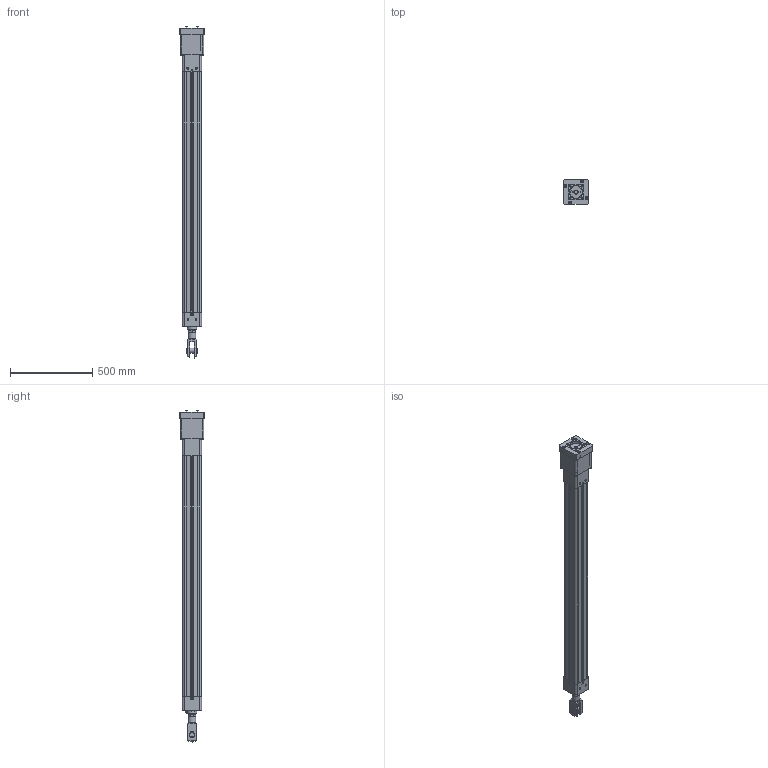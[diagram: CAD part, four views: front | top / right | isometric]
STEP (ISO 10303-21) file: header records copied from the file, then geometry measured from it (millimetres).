
FILE_DESCRIPTION (( 'STEP AP203' ), '1' );
FILE_NAME ('RSA64_BNH02_SM1270.000_RS-479481-1.step', '2025-01-21T20:08:33', ( '' ), ( '' ), 'SwSTEP 2.0', 'SolidWorks 2024', '' );
FILE_SCHEMA (( 'CONFIG_CONTROL_DESIGN' ));
Length unit declared in the file: inch
Products named in the file (4): Base_RSA64_BNH02_SM1270.000_RS-479481-1; 21649386_RSA64_BNH02_SM1270.000_RS-479481-1; tempJoin1_21649341_RSA64_BNH02_SM1270.000_RS-479481-1; RSA64_BNH02_SM1270.000_RS-479481-1
Assembly tree (3 placements, depth 2):
  RSA64_BNH02_SM1270.000_RS-479481-1
    21649386_RSA64_BNH02_SM1270.000_RS-479481-1
    tempJoin1_21649341_RSA64_BNH02_SM1270.000_RS-479481-1
    Base_RSA64_BNH02_SM1270.000_RS-479481-1
Bounding box: 149.86 x 149.86 x 2022.58 mm (x, y, z)
Volume: 16489710.1 mm3; surface area: 2009591.1 mm2
Topology: 4 solids, 31 shells, 1057 faces, 2526 edges, 1624 vertices
Faces by surface type: plane 636, cylinder 286, cone 100, torus 21, bspline 10, sphere 4
Full cylindrical faces by diameter (mm): 2.25 x4, 5 x1, 5.001 x4, 5.41 x1, 5.999 x4, 6 x4, 6.35 x2, 6.355 x2, 6.38 x4, 6.477 x1, 7.366 x2, 8.433 x2, 9.525 x2, 10 x12, 10.2 x6, 10.25 x8, 10.312 x2, 10.719 x4, 10.72 x4, 12 x4, 12.5 x10, 12.7 x4, 14.275 x2, 14.3 x2, 15.875 x2, 16 x8, 17.5 x4, 18 x8, 19.1 x4, 19.837 x4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
Entity records: 30100 total; most frequent: CARTESIAN_POINT 6431, DIRECTION 4932, ORIENTED_EDGE 4314, EDGE_CURVE 2157, AXIS2_PLACEMENT_3D 1807, VERTEX_POINT 1507, EDGE_LOOP 1456, VECTOR 1318
